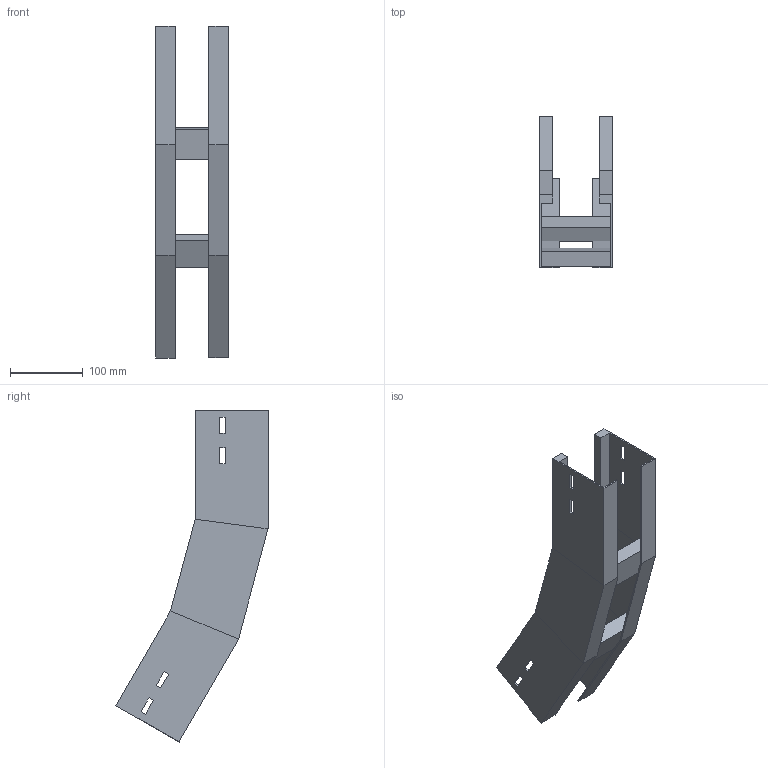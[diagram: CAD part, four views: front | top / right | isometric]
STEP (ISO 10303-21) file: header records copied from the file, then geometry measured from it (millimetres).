
FILE_DESCRIPTION (( 'STEP AP214' ), '1' );
FILE_NAME ('B2X32B5D100XX.step', '2025-03-20T09:58:31', ( '' ), ( '' ), 'SwSTEP 2.0', 'SolidWorks 2023', '' );
FILE_SCHEMA (( 'AUTOMOTIVE_DESIGN' ));
Length unit declared in the file: millimetre
Products named in the file (3): LONGH.SALITA_30°_H100_R500; TRAVERSINO_100; B2X32B5D100XX
Assembly tree (4 placements, depth 2):
  B2X32B5D100XX
    LONGH.SALITA_30°_H100_R500  x2
    TRAVERSINO_100  x2
Bounding box: 100 x 208.63 x 455.43 mm (x, y, z)
Volume: 550081 mm3; surface area: 288787.6 mm2
Topology: 4 solids, 4 shells, 96 faces, 232 edges, 144 vertices
Faces by surface type: plane 96
Entity records: 1472 total; most frequent: CARTESIAN_POINT 243, ORIENTED_EDGE 232, DIRECTION 226, LINE 116, EDGE_CURVE 116, VECTOR 116, VERTEX_POINT 72, EDGE_LOOP 56
